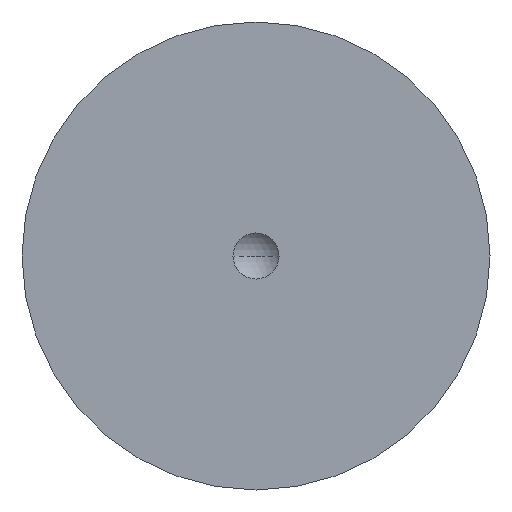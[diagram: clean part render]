
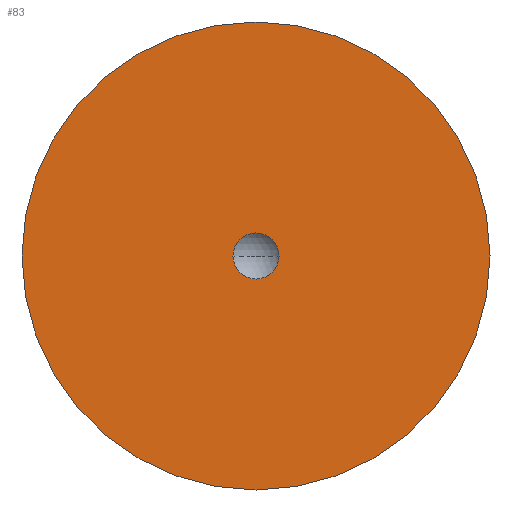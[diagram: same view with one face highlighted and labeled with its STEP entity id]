
A CAD part, front view. The second image highlights one B-rep face of the part: STEP entity #83.
In plain terms, the highlighted planar face has unit normal (0, -1, 0).
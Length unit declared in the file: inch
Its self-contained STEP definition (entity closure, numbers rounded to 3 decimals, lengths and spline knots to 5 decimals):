
#2 = CARTESIAN_POINT ( 'NONE',  ( 0., -0.036, 0. ) ) ;
#4 = DIRECTION ( 'NONE',  ( 0., 0., -1. ) ) ;
#5 = PLANE ( 'NONE',  #189 ) ;
#16 = CARTESIAN_POINT ( 'NONE',  ( 0., -0.036, 0. ) ) ;
#25 = VERTEX_POINT ( 'NONE', #109 ) ;
#37 = DIRECTION ( 'NONE',  ( 0., 0., 1. ) ) ;
#49 = CIRCLE ( 'NONE', #72, 0.625 ) ;
#64 = ORIENTED_EDGE ( 'NONE', *, *, #182, .T. ) ;
#66 = ORIENTED_EDGE ( 'NONE', *, *, #111, .F. ) ;
#67 = EDGE_LOOP ( 'NONE', ( #66, #101 ) ) ;
#72 = AXIS2_PLACEMENT_3D ( 'NONE', #187, #206, #122 ) ;
#76 = DIRECTION ( 'NONE',  ( 0., 1., 0. ) ) ;
#78 = EDGE_CURVE ( 'NONE', #216, #178, #150, .T. ) ;
#83 = ADVANCED_FACE ( 'NONE', ( #222, #152 ), #5, .T. ) ;
#86 = VERTEX_POINT ( 'NONE', #226 ) ;
#93 = AXIS2_PLACEMENT_3D ( 'NONE', #168, #121, #94 ) ;
#94 = DIRECTION ( 'NONE',  ( 0., 0., 1. ) ) ;
#101 = ORIENTED_EDGE ( 'NONE', *, *, #165, .F. ) ;
#109 = CARTESIAN_POINT ( 'NONE',  ( 0., -0.036, -0.625 ) ) ;
#111 = EDGE_CURVE ( 'NONE', #86, #25, #112, .T. ) ;
#112 = CIRCLE ( 'NONE', #93, 0.625 ) ;
#115 = CIRCLE ( 'NONE', #230, 0.06145 ) ;
#121 = DIRECTION ( 'NONE',  ( 0., 1., 0. ) ) ;
#122 = DIRECTION ( 'NONE',  ( 0., 0., 1. ) ) ;
#150 = CIRCLE ( 'NONE', #154, 0.06145 ) ;
#151 = CARTESIAN_POINT ( 'NONE',  ( -0.625, -0.036, 0. ) ) ;
#152 = FACE_OUTER_BOUND ( 'NONE', #67, .T. ) ;
#154 = AXIS2_PLACEMENT_3D ( 'NONE', #16, #166, #243 ) ;
#155 = CARTESIAN_POINT ( 'NONE',  ( 0.06145, -0.036, 0. ) ) ;
#165 = EDGE_CURVE ( 'NONE', #25, #86, #49, .T. ) ;
#166 = DIRECTION ( 'NONE',  ( 0., 1., 0. ) ) ;
#168 = CARTESIAN_POINT ( 'NONE',  ( 0., -0.036, 0. ) ) ;
#170 = CARTESIAN_POINT ( 'NONE',  ( -0.06145, -0.036, 0. ) ) ;
#175 = DIRECTION ( 'NONE',  ( 0., -1., 0. ) ) ;
#178 = VERTEX_POINT ( 'NONE', #170 ) ;
#182 = EDGE_CURVE ( 'NONE', #178, #216, #115, .T. ) ;
#187 = CARTESIAN_POINT ( 'NONE',  ( 0., -0.036, 0. ) ) ;
#189 = AXIS2_PLACEMENT_3D ( 'NONE', #151, #175, #4 ) ;
#206 = DIRECTION ( 'NONE',  ( 0., 1., 0. ) ) ;
#207 = EDGE_LOOP ( 'NONE', ( #64, #217 ) ) ;
#216 = VERTEX_POINT ( 'NONE', #155 ) ;
#217 = ORIENTED_EDGE ( 'NONE', *, *, #78, .T. ) ;
#222 = FACE_BOUND ( 'NONE', #207, .T. ) ;
#226 = CARTESIAN_POINT ( 'NONE',  ( 0., -0.036, 0.625 ) ) ;
#230 = AXIS2_PLACEMENT_3D ( 'NONE', #2, #76, #37 ) ;
#243 = DIRECTION ( 'NONE',  ( 0., 0., 1. ) ) ;
